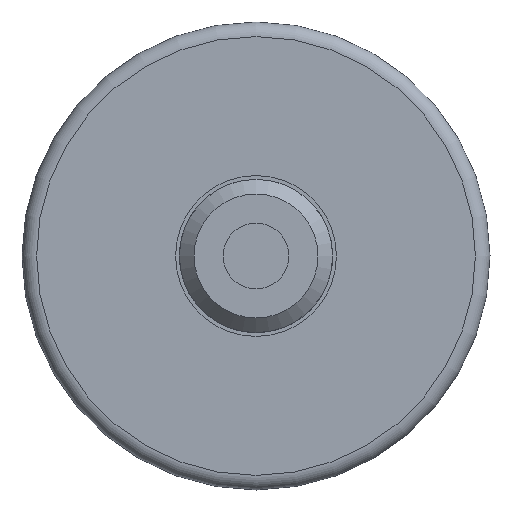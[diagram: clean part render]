
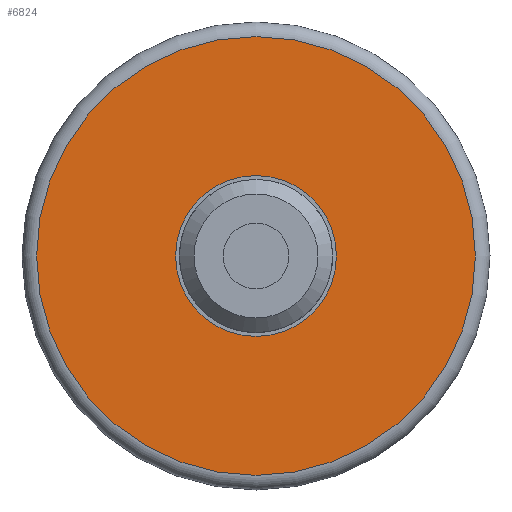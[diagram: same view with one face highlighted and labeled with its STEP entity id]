
A CAD part, left-side view. The second image highlights one B-rep face of the part: STEP entity #6824.
In plain terms, the highlighted planar face has unit normal (-1, 0, 0).
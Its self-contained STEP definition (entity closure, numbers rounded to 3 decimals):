
#162=FACE_BOUND('',#2865,.T.);
#470=PLANE('',#7251);
#2426=FACE_OUTER_BOUND('',#2864,.T.);
#2864=EDGE_LOOP('',(#6236,#6237));
#2865=EDGE_LOOP('',(#6238,#6239));
#2966=CIRCLE('',#7248,30.);
#2968=CIRCLE('',#7250,30.);
#2969=CIRCLE('',#7252,7.);
#2970=CIRCLE('',#7253,7.);
#3573=VERTEX_POINT('',#10970);
#3574=VERTEX_POINT('',#10971);
#3575=VERTEX_POINT('',#10976);
#3576=VERTEX_POINT('',#10977);
#4480=EDGE_CURVE('',#3573,#3574,#2966,.T.);
#4482=EDGE_CURVE('',#3574,#3573,#2968,.T.);
#4483=EDGE_CURVE('',#3575,#3576,#2969,.T.);
#4484=EDGE_CURVE('',#3576,#3575,#2970,.T.);
#6236=ORIENTED_EDGE('',*,*,#4480,.F.);
#6237=ORIENTED_EDGE('',*,*,#4482,.F.);
#6238=ORIENTED_EDGE('',*,*,#4483,.T.);
#6239=ORIENTED_EDGE('',*,*,#4484,.T.);
#6824=ADVANCED_FACE('',(#2426,#162),#470,.F.);
#7248=AXIS2_PLACEMENT_3D('',#10972,#8799,#8800);
#7250=AXIS2_PLACEMENT_3D('',#10974,#8803,#8804);
#7251=AXIS2_PLACEMENT_3D('',#10975,#8805,#8806);
#7252=AXIS2_PLACEMENT_3D('',#10978,#8807,#8808);
#7253=AXIS2_PLACEMENT_3D('',#10979,#8809,#8810);
#8799=DIRECTION('center_axis',(1.,0.,0.));
#8800=DIRECTION('ref_axis',(0.,-1.,0.));
#8803=DIRECTION('center_axis',(1.,0.,0.));
#8804=DIRECTION('ref_axis',(0.,-1.,0.));
#8805=DIRECTION('center_axis',(1.,0.,0.));
#8806=DIRECTION('ref_axis',(0.,0.,-1.));
#8807=DIRECTION('center_axis',(1.,0.,0.));
#8808=DIRECTION('ref_axis',(0.,0.,1.));
#8809=DIRECTION('center_axis',(1.,0.,0.));
#8810=DIRECTION('ref_axis',(0.,0.,1.));
#10970=CARTESIAN_POINT('',(-10.,30.,0.));
#10971=CARTESIAN_POINT('',(-10.,0.,-30.));
#10972=CARTESIAN_POINT('Origin',(-10.,0.,0.));
#10974=CARTESIAN_POINT('Origin',(-10.,0.,0.));
#10975=CARTESIAN_POINT('Origin',(-10.,0.,0.));
#10976=CARTESIAN_POINT('',(-10.,0.,7.));
#10977=CARTESIAN_POINT('',(-10.,0.,-7.));
#10978=CARTESIAN_POINT('Origin',(-10.,0.,0.));
#10979=CARTESIAN_POINT('Origin',(-10.,0.,0.));
